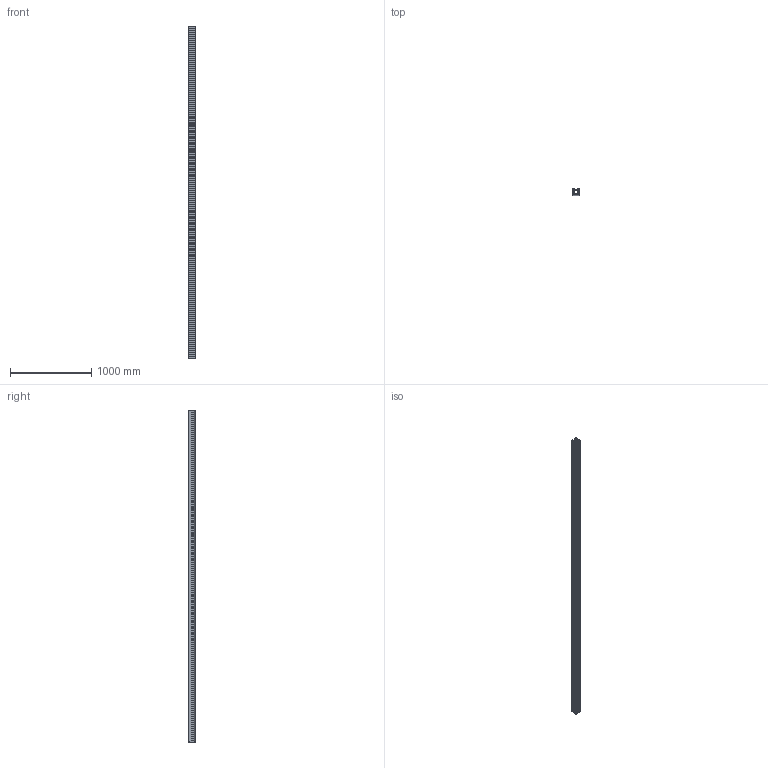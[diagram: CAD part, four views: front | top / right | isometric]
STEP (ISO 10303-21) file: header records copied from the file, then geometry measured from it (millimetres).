
FILE_DESCRIPTION (( 'STEP AP203' ), '1' );
FILE_NAME ('_-_MLF 4 4098 mm lang.step', '2005-09-01T12:47:04', ( ' ' ), ( ' ' ), 'SwSTEP 2.0', 'SolidWorks 2005187', '' );
FILE_SCHEMA (( 'CONFIG_CONTROL_DESIGN' ));
Length unit declared in the file: millimetre
Products named in the file (1): _-_MLF 4  4098 mm lang
Bounding box: 87.59 x 80 x 4098 mm (x, y, z)
Volume: 9442629.1 mm3; surface area: 5060226.3 mm2
Topology: 1 solids, 1 shells, 248 faces, 762 edges, 500 vertices
Faces by surface type: plane 174, cylinder 74
Entity records: 8575 total; most frequent: ORIENTED_EDGE 1524, CARTESIAN_POINT 1511, DIRECTION 1408, EDGE_CURVE 762, VECTOR 614, LINE 614, VERTEX_POINT 500, AXIS2_PLACEMENT_3D 397
